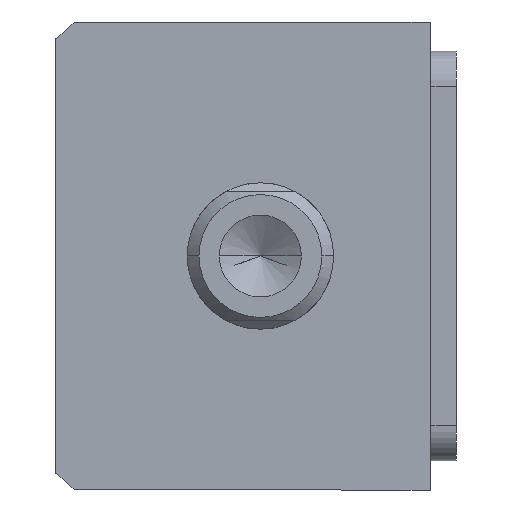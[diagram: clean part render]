
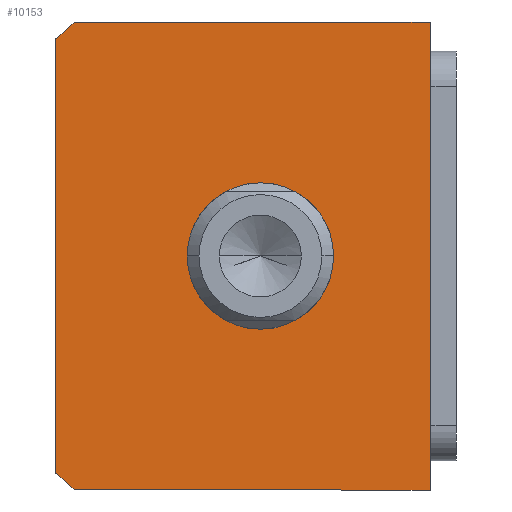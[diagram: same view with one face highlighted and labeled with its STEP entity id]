
A CAD part, front view. The second image highlights one B-rep face of the part: STEP entity #10153.
In plain terms, the highlighted planar face has unit normal (0, -1, 0) as drawn and (0, 0, -1) by its records, which use the part's own axes.
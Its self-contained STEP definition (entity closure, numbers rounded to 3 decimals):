
#253 = FACE_BOUND ( 'NONE', #1712, .T. ) ;
#374 = CARTESIAN_POINT ( 'NONE',  ( -40., -28.639, 0. ) ) ;
#416 = CARTESIAN_POINT ( 'NONE',  ( -40., -32., 0. ) ) ;
#600 = AXIS2_PLACEMENT_3D ( 'NONE', #7587, #2619, #8430 ) ;
#828 = AXIS2_PLACEMENT_3D ( 'NONE', #4381, #6057, #1108 ) ;
#948 = CARTESIAN_POINT ( 'NONE',  ( 40., 32., 0. ) ) ;
#1104 = EDGE_CURVE ( 'NONE', #7596, #2285, #9323, .T. ) ;
#1108 = DIRECTION ( 'NONE',  ( 1., 0., 0. ) ) ;
#1256 = DIRECTION ( 'NONE',  ( 0., 0., 1. ) ) ;
#1277 = DIRECTION ( 'NONE',  ( -1., 0., 0. ) ) ;
#1345 = EDGE_CURVE ( 'NONE', #8921, #9633, #8690, .T. ) ;
#1380 = LINE ( 'NONE', #6270, #9959 ) ;
#1426 = ORIENTED_EDGE ( 'NONE', *, *, #3733, .F. ) ;
#1427 = ORIENTED_EDGE ( 'NONE', *, *, #9773, .T. ) ;
#1712 = EDGE_LOOP ( 'NONE', ( #1427, #8260 ) ) ;
#1802 = EDGE_LOOP ( 'NONE', ( #9657, #7439, #1426, #6216, #8415, #9392 ) ) ;
#2123 = LINE ( 'NONE', #948, #8747 ) ;
#2186 = DIRECTION ( 'NONE',  ( 0., 0., 1. ) ) ;
#2285 = VERTEX_POINT ( 'NONE', #6244 ) ;
#2619 = DIRECTION ( 'NONE',  ( 0., 0., 1. ) ) ;
#3733 = EDGE_CURVE ( 'NONE', #9582, #8921, #1380, .T. ) ;
#4381 = CARTESIAN_POINT ( 'NONE',  ( 0., 0., 0. ) ) ;
#4674 = CARTESIAN_POINT ( 'NONE',  ( 12.5, 3., 0. ) ) ;
#4752 = VERTEX_POINT ( 'NONE', #4674 ) ;
#4899 = DIRECTION ( 'NONE',  ( 0., 0., 1. ) ) ;
#5120 = AXIS2_PLACEMENT_3D ( 'NONE', #7152, #2186, #7993 ) ;
#5188 = CARTESIAN_POINT ( 'NONE',  ( 40., -28.639, 0. ) ) ;
#5216 = PLANE ( 'NONE',  #828 ) ;
#5527 = CIRCLE ( 'NONE', #5120, 12.5 ) ;
#5609 = CARTESIAN_POINT ( 'NONE',  ( -37.094, -32., 0. ) ) ;
#5901 = DIRECTION ( 'NONE',  ( 0., 1., 0. ) ) ;
#6057 = DIRECTION ( 'NONE',  ( 0., 0., 1. ) ) ;
#6214 = CARTESIAN_POINT ( 'NONE',  ( 0., 3., 0. ) ) ;
#6216 = ORIENTED_EDGE ( 'NONE', *, *, #7180, .F. ) ;
#6244 = CARTESIAN_POINT ( 'NONE',  ( 37.094, -32., 0. ) ) ;
#6270 = CARTESIAN_POINT ( 'NONE',  ( -40., 32., 0. ) ) ;
#6326 = DIRECTION ( 'NONE',  ( 0., -1., 0. ) ) ;
#6544 = EDGE_CURVE ( 'NONE', #6935, #4752, #9155, .T. ) ;
#6703 = CIRCLE ( 'NONE', #8617, 51. ) ;
#6923 = CARTESIAN_POINT ( 'NONE',  ( 40., 32., 0. ) ) ;
#6935 = VERTEX_POINT ( 'NONE', #10656 ) ;
#7052 = DIRECTION ( 'NONE',  ( 1., 0., 0. ) ) ;
#7078 = VECTOR ( 'NONE', #7868, 1000. ) ;
#7152 = CARTESIAN_POINT ( 'NONE',  ( 0., 3., 0. ) ) ;
#7180 = EDGE_CURVE ( 'NONE', #8830, #9582, #2123, .T. ) ;
#7392 = EDGE_CURVE ( 'NONE', #2285, #8830, #7440, .T. ) ;
#7439 = ORIENTED_EDGE ( 'NONE', *, *, #1345, .F. ) ;
#7440 = CIRCLE ( 'NONE', #7634, 51. ) ;
#7587 = CARTESIAN_POINT ( 'NONE',  ( 0., 3., 0. ) ) ;
#7596 = VERTEX_POINT ( 'NONE', #5609 ) ;
#7634 = AXIS2_PLACEMENT_3D ( 'NONE', #6214, #1256, #7052 ) ;
#7868 = DIRECTION ( 'NONE',  ( 1., 0., 0. ) ) ;
#7993 = DIRECTION ( 'NONE',  ( 1., 0., 0. ) ) ;
#8042 = CARTESIAN_POINT ( 'NONE',  ( -40., 32., 0. ) ) ;
#8156 = VECTOR ( 'NONE', #6326, 1000. ) ;
#8260 = ORIENTED_EDGE ( 'NONE', *, *, #6544, .T. ) ;
#8415 = ORIENTED_EDGE ( 'NONE', *, *, #7392, .F. ) ;
#8430 = DIRECTION ( 'NONE',  ( 1., 0., 0. ) ) ;
#8617 = AXIS2_PLACEMENT_3D ( 'NONE', #9887, #4899, #10720 ) ;
#8690 = LINE ( 'NONE', #8042, #8156 ) ;
#8747 = VECTOR ( 'NONE', #5901, 1000. ) ;
#8785 = FACE_OUTER_BOUND ( 'NONE', #1802, .T. ) ;
#8830 = VERTEX_POINT ( 'NONE', #5188 ) ;
#8921 = VERTEX_POINT ( 'NONE', #10244 ) ;
#9155 = CIRCLE ( 'NONE', #600, 12.5 ) ;
#9323 = LINE ( 'NONE', #416, #7078 ) ;
#9392 = ORIENTED_EDGE ( 'NONE', *, *, #1104, .F. ) ;
#9582 = VERTEX_POINT ( 'NONE', #6923 ) ;
#9633 = VERTEX_POINT ( 'NONE', #374 ) ;
#9657 = ORIENTED_EDGE ( 'NONE', *, *, #10494, .F. ) ;
#9773 = EDGE_CURVE ( 'NONE', #4752, #6935, #5527, .T. ) ;
#9887 = CARTESIAN_POINT ( 'NONE',  ( 0., 3., 0. ) ) ;
#9959 = VECTOR ( 'NONE', #1277, 1000. ) ;
#10153 = ADVANCED_FACE ( 'NONE', ( #253, #8785 ), #5216, .F. ) ;
#10244 = CARTESIAN_POINT ( 'NONE',  ( -40., 32., 0. ) ) ;
#10494 = EDGE_CURVE ( 'NONE', #9633, #7596, #6703, .T. ) ;
#10656 = CARTESIAN_POINT ( 'NONE',  ( -12.5, 3., 0. ) ) ;
#10720 = DIRECTION ( 'NONE',  ( 1., 0., 0. ) ) ;
